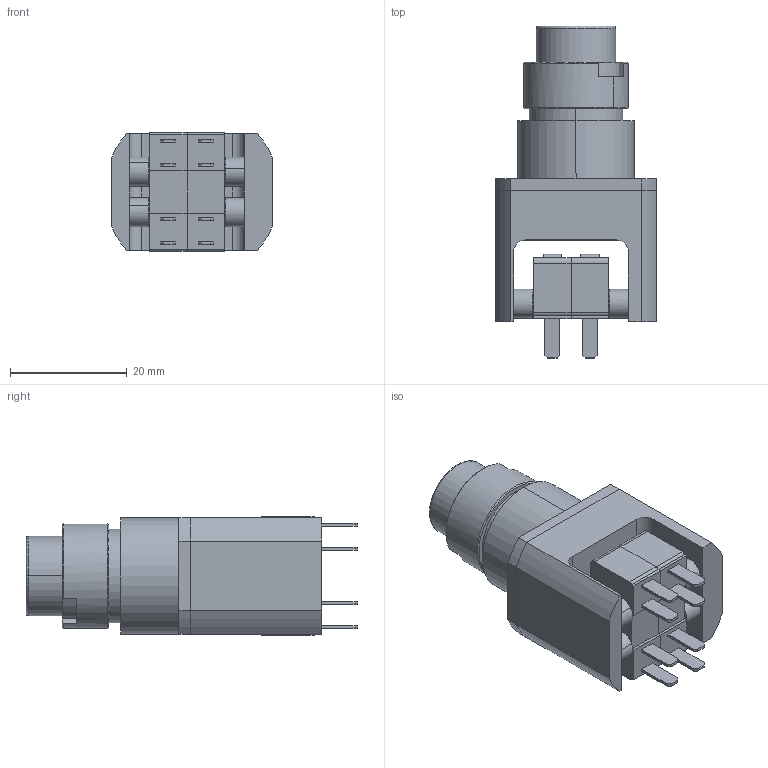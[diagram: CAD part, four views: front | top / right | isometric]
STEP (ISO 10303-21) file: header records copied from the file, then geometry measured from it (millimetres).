
FILE_DESCRIPTION (( 'STEP AP214' ), '1' );
FILE_NAME ('016P3P22F.STEP', '2020-03-03T10:17:26', ( '' ), ( '' ), 'SwSTEP 2.0', 'SolidWorks 2013', '' );
FILE_SCHEMA (( 'AUTOMOTIVE_DESIGN' ));
Length unit declared in the file: millimetre
Products named in the file (7): (160015); (160009); (160002); (160005); (167005); 016P3P22F; (160001)
Assembly tree (10 placements, depth 2):
  016P3P22F
    (160015)
    (160002)
    (160009)  x4
    (167005)  x2
    (160001)
    (160005)
Bounding box: 27.5 x 56.9 x 20.4 mm (x, y, z)
Volume: 14915.1 mm3; surface area: 11157.1 mm2
Topology: 12 solids, 12 shells, 228 faces, 556 edges, 365 vertices
Faces by surface type: plane 136, cylinder 76, cone 8, torus 6, sphere 2
Entity records: 6086 total; most frequent: DIRECTION 816, CARTESIAN_POINT 775, ORIENTED_EDGE 728, EDGE_CURVE 364, AXIS2_PLACEMENT_3D 294, VERTEX_POINT 237, VECTOR 228, LINE 228
